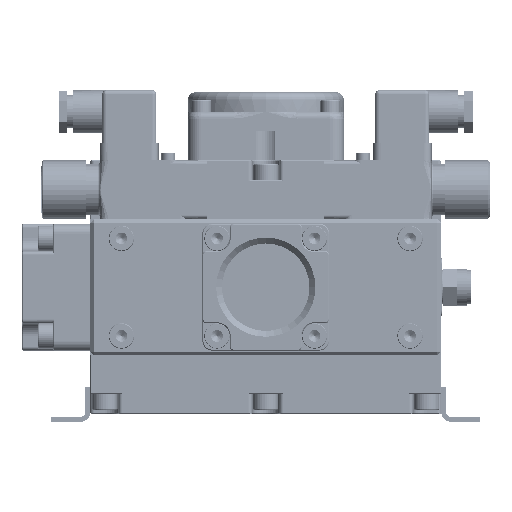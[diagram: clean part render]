
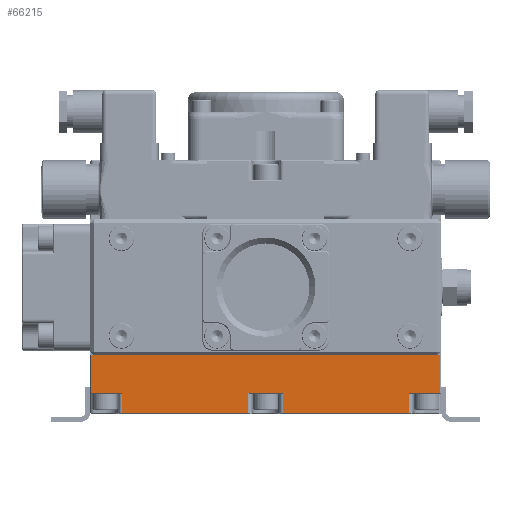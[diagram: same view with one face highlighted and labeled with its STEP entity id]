
A CAD part, front view. The second image highlights one B-rep face of the part: STEP entity #66215.
In plain terms, the highlighted planar face has unit normal (0, -1, 0).
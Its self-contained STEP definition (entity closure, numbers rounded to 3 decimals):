
#1261 = VECTOR ( 'NONE', #119260, 1000. ) ;
#2240 = LINE ( 'NONE', #106266, #134169 ) ;
#3353 = VECTOR ( 'NONE', #130282, 1000. ) ;
#4107 = DIRECTION ( 'NONE',  ( -1., 0., 0. ) ) ;
#4277 = DIRECTION ( 'NONE',  ( 0., 0., -1. ) ) ;
#5667 = CARTESIAN_POINT ( 'NONE',  ( 163.5, 0., -29.5 ) ) ;
#6978 = ORIENTED_EDGE ( 'NONE', *, *, #54685, .F. ) ;
#7112 = VERTEX_POINT ( 'NONE', #17395 ) ;
#8170 = CARTESIAN_POINT ( 'NONE',  ( 16.5, 0., -19.5 ) ) ;
#8724 = VECTOR ( 'NONE', #34952, 1000. ) ;
#9670 = CARTESIAN_POINT ( 'NONE',  ( 163.5, 0., -29.5 ) ) ;
#10893 = LINE ( 'NONE', #20478, #84430 ) ;
#12578 = CARTESIAN_POINT ( 'NONE',  ( 16.5, 0., -29.5 ) ) ;
#13183 = ORIENTED_EDGE ( 'NONE', *, *, #81282, .F. ) ;
#14185 = VECTOR ( 'NONE', #4107, 1000. ) ;
#14430 = EDGE_CURVE ( 'NONE', #97201, #47219, #37329, .T. ) ;
#14814 = EDGE_CURVE ( 'NONE', #47219, #128344, #81546, .T. ) ;
#15112 = VERTEX_POINT ( 'NONE', #44533 ) ;
#15153 = CARTESIAN_POINT ( 'NONE',  ( 81., 0., -29.5 ) ) ;
#16737 = DIRECTION ( 'NONE',  ( 0., 0., -1. ) ) ;
#17395 = CARTESIAN_POINT ( 'NONE',  ( 99., 0., -29.5 ) ) ;
#20478 = CARTESIAN_POINT ( 'NONE',  ( 163.5, 0., -19.5 ) ) ;
#21856 = CARTESIAN_POINT ( 'NONE',  ( 0., 0., 0. ) ) ;
#26865 = DIRECTION ( 'NONE',  ( -1., 0., 0. ) ) ;
#27168 = ORIENTED_EDGE ( 'NONE', *, *, #14814, .F. ) ;
#28845 = ORIENTED_EDGE ( 'NONE', *, *, #93495, .F. ) ;
#33094 = CARTESIAN_POINT ( 'NONE',  ( 0.5, 0., -19.5 ) ) ;
#33541 = EDGE_LOOP ( 'NONE', ( #119082, #81552, #76859, #28845, #67811, #6978, #87555, #27168, #97059, #134086, #48830, #13183 ) ) ;
#34952 = DIRECTION ( 'NONE',  ( 0., 0., 1. ) ) ;
#37177 = VECTOR ( 'NONE', #54321, 1000. ) ;
#37329 = LINE ( 'NONE', #99555, #62590 ) ;
#37973 = AXIS2_PLACEMENT_3D ( 'NONE', #21856, #53321, #43070 ) ;
#38550 = LINE ( 'NONE', #5667, #3353 ) ;
#38683 = CARTESIAN_POINT ( 'NONE',  ( 179.5, 0., 0. ) ) ;
#42466 = EDGE_CURVE ( 'NONE', #128344, #109880, #73509, .T. ) ;
#42912 = CARTESIAN_POINT ( 'NONE',  ( 0.5, 0., 0. ) ) ;
#43070 = DIRECTION ( 'NONE',  ( 0., 0., 1. ) ) ;
#43758 = FACE_OUTER_BOUND ( 'NONE', #33541, .T. ) ;
#44056 = CARTESIAN_POINT ( 'NONE',  ( 99., 0., -19.5 ) ) ;
#44533 = CARTESIAN_POINT ( 'NONE',  ( 179.5, 0., -19.5 ) ) ;
#45899 = CARTESIAN_POINT ( 'NONE',  ( 179.5, 0., -19.5 ) ) ;
#47219 = VERTEX_POINT ( 'NONE', #15153 ) ;
#48830 = ORIENTED_EDGE ( 'NONE', *, *, #124598, .F. ) ;
#53298 = DIRECTION ( 'NONE',  ( 0., 0., -1. ) ) ;
#53321 = DIRECTION ( 'NONE',  ( 0., -1., 0. ) ) ;
#54321 = DIRECTION ( 'NONE',  ( 0., 0., 1. ) ) ;
#54685 = EDGE_CURVE ( 'NONE', #109880, #115683, #133475, .T. ) ;
#55622 = LINE ( 'NONE', #117900, #66906 ) ;
#56041 = CARTESIAN_POINT ( 'NONE',  ( 163.5, 0., -19.5 ) ) ;
#56835 = CARTESIAN_POINT ( 'NONE',  ( 16.5, 0., -19.5 ) ) ;
#56989 = CARTESIAN_POINT ( 'NONE',  ( 0.5, 0., 0. ) ) ;
#58381 = DIRECTION ( 'NONE',  ( -1., 0., 0. ) ) ;
#62590 = VECTOR ( 'NONE', #16737, 1000. ) ;
#63065 = CARTESIAN_POINT ( 'NONE',  ( 81., 0., -19.5 ) ) ;
#65011 = LINE ( 'NONE', #128700, #8724 ) ;
#66215 = ADVANCED_FACE ( 'NONE', ( #43758 ), #115594, .T. ) ;
#66688 = EDGE_CURVE ( 'NONE', #100103, #97201, #67978, .T. ) ;
#66906 = VECTOR ( 'NONE', #4277, 1000. ) ;
#67811 = ORIENTED_EDGE ( 'NONE', *, *, #121561, .F. ) ;
#67978 = LINE ( 'NONE', #121361, #132041 ) ;
#70249 = VECTOR ( 'NONE', #112853, 1000. ) ;
#70593 = CARTESIAN_POINT ( 'NONE',  ( 81., 0., -29.5 ) ) ;
#73509 = LINE ( 'NONE', #12578, #37177 ) ;
#74807 = DIRECTION ( 'NONE',  ( 0., 0., 1. ) ) ;
#76099 = VERTEX_POINT ( 'NONE', #9670 ) ;
#76859 = ORIENTED_EDGE ( 'NONE', *, *, #93432, .F. ) ;
#81282 = EDGE_CURVE ( 'NONE', #76099, #7112, #38550, .T. ) ;
#81546 = LINE ( 'NONE', #70593, #117383 ) ;
#81552 = ORIENTED_EDGE ( 'NONE', *, *, #103981, .F. ) ;
#81700 = VERTEX_POINT ( 'NONE', #42912 ) ;
#83127 = VERTEX_POINT ( 'NONE', #56041 ) ;
#84430 = VECTOR ( 'NONE', #53298, 1000. ) ;
#87201 = CARTESIAN_POINT ( 'NONE',  ( 16.5, 0., -29.5 ) ) ;
#87555 = ORIENTED_EDGE ( 'NONE', *, *, #42466, .F. ) ;
#88312 = LINE ( 'NONE', #45899, #14185 ) ;
#93432 = EDGE_CURVE ( 'NONE', #123147, #15112, #55622, .T. ) ;
#93495 = EDGE_CURVE ( 'NONE', #81700, #123147, #128899, .T. ) ;
#97059 = ORIENTED_EDGE ( 'NONE', *, *, #14430, .F. ) ;
#97201 = VERTEX_POINT ( 'NONE', #63065 ) ;
#99555 = CARTESIAN_POINT ( 'NONE',  ( 81., 0., -19.5 ) ) ;
#100103 = VERTEX_POINT ( 'NONE', #44056 ) ;
#103981 = EDGE_CURVE ( 'NONE', #15112, #83127, #88312, .T. ) ;
#105365 = EDGE_CURVE ( 'NONE', #83127, #76099, #10893, .T. ) ;
#106266 = CARTESIAN_POINT ( 'NONE',  ( 0.5, 0., -19.5 ) ) ;
#109880 = VERTEX_POINT ( 'NONE', #56835 ) ;
#112853 = DIRECTION ( 'NONE',  ( -1., 0., 0. ) ) ;
#115594 = PLANE ( 'NONE',  #37973 ) ;
#115683 = VERTEX_POINT ( 'NONE', #33094 ) ;
#117383 = VECTOR ( 'NONE', #26865, 1000. ) ;
#117900 = CARTESIAN_POINT ( 'NONE',  ( 179.5, 0., 0. ) ) ;
#119082 = ORIENTED_EDGE ( 'NONE', *, *, #105365, .F. ) ;
#119260 = DIRECTION ( 'NONE',  ( 1., 0., 0. ) ) ;
#121361 = CARTESIAN_POINT ( 'NONE',  ( 99., 0., -19.5 ) ) ;
#121561 = EDGE_CURVE ( 'NONE', #115683, #81700, #2240, .T. ) ;
#123147 = VERTEX_POINT ( 'NONE', #38683 ) ;
#124598 = EDGE_CURVE ( 'NONE', #7112, #100103, #65011, .T. ) ;
#128344 = VERTEX_POINT ( 'NONE', #87201 ) ;
#128700 = CARTESIAN_POINT ( 'NONE',  ( 99., 0., -29.5 ) ) ;
#128899 = LINE ( 'NONE', #56989, #1261 ) ;
#130282 = DIRECTION ( 'NONE',  ( -1., 0., 0. ) ) ;
#132041 = VECTOR ( 'NONE', #58381, 1000. ) ;
#133475 = LINE ( 'NONE', #8170, #70249 ) ;
#134086 = ORIENTED_EDGE ( 'NONE', *, *, #66688, .F. ) ;
#134169 = VECTOR ( 'NONE', #74807, 1000. ) ;
